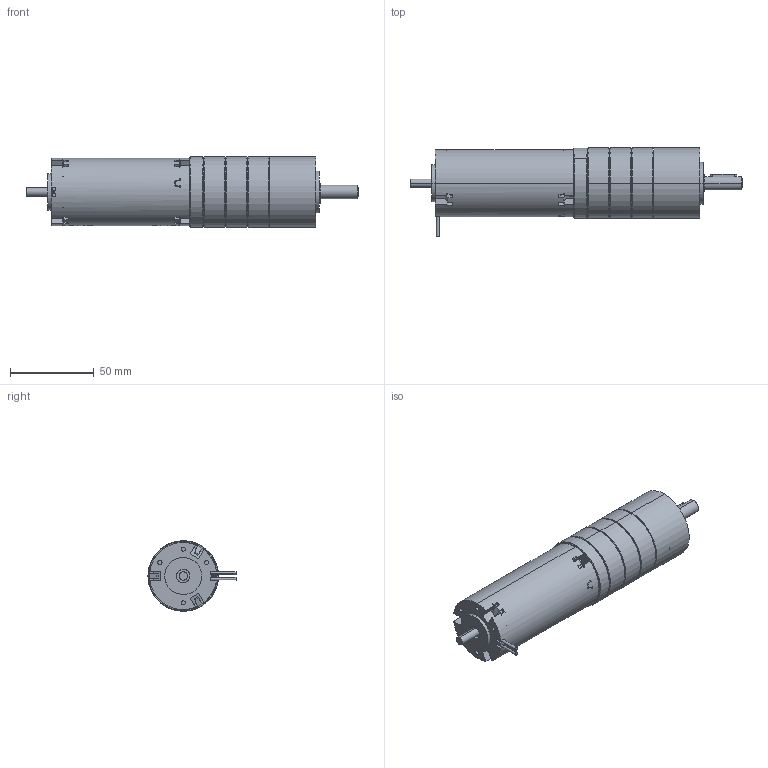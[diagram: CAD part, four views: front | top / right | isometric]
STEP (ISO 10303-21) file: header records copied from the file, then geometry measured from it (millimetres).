
FILE_DESCRIPTION (( 'STEP AP214' ), '1' );
FILE_NAME ('1.13.049_+_PM42-3etages.STEP', '2013-07-18T14:50:46', ( '' ), ( '' ), 'SwSTEP 2.0', 'SolidWorks 2013', '' );
FILE_SCHEMA (( 'AUTOMOTIVE_DESIGN' ));
Length unit declared in the file: millimetre
Products named in the file (18): 1.13.049_+_PM42-3etages; 1.13.049.401_3; D912_M3X8_5; SCHRAUBE_1241978_12; 8006286_MOTORRITZEL_Z17_2; 8007579_ANLAUFSCHEIBE_Z17_1ST_1; 1210329_1; P8209_8007589_ZAHNKRANZ_Z46_5; 8007606_DICHTRING_5; 3X3X16_D6885A_6; D471_8X0_8_6; 8001316_ABTRIEB_LK4_KPL_5; 8001305_LAGERBOLZEN_6; VBZ_K7841_ABTRIEB_AF0_6; DIN998_PS_8X14X1_6; D625-608-2RS_5; 8007595_LAGERFLANSCH_5
Assembly tree (30 placements, depth 3):
  1.13.049_+_PM42-3etages
    8007595_LAGERFLANSCH_5
    D625-608-2RS_5  x2
    DIN998_PS_8X14X1_6  x2
    8001316_ABTRIEB_LK4_KPL_5
      VBZ_K7841_ABTRIEB_AF0_6
      8001305_LAGERBOLZEN_6  x3
    D471_8X0_8_6
    3X3X16_D6885A_6
    8007606_DICHTRING_5  x4
    P8209_8007589_ZAHNKRANZ_Z46_5  x3
    1210329_1
    8007579_ANLAUFSCHEIBE_Z17_1ST_1
    8006286_MOTORRITZEL_Z17_2
    SCHRAUBE_1241978_12  x4
    D912_M3X8_5  x2
    1.13.049.401_3
      1.13.049.401_3
Bounding box: 197.7 x 52.44 x 42 mm (x, y, z)
Volume: 34969.4 mm3; surface area: 76182.6 mm2
Topology: 22 solids, 53 shells, 1657 faces, 4605 edges, 3011 vertices
Faces by surface type: cylinder 776, plane 629, cone 147, bspline 105
Entity records: 44813 total; most frequent: CARTESIAN_POINT 12598, ORIENTED_EDGE 5823, DIRECTION 5481, EDGE_CURVE 2944, AXIS2_PLACEMENT_3D 2009, VERTEX_POINT 1933, VECTOR 1463, LINE 1463
